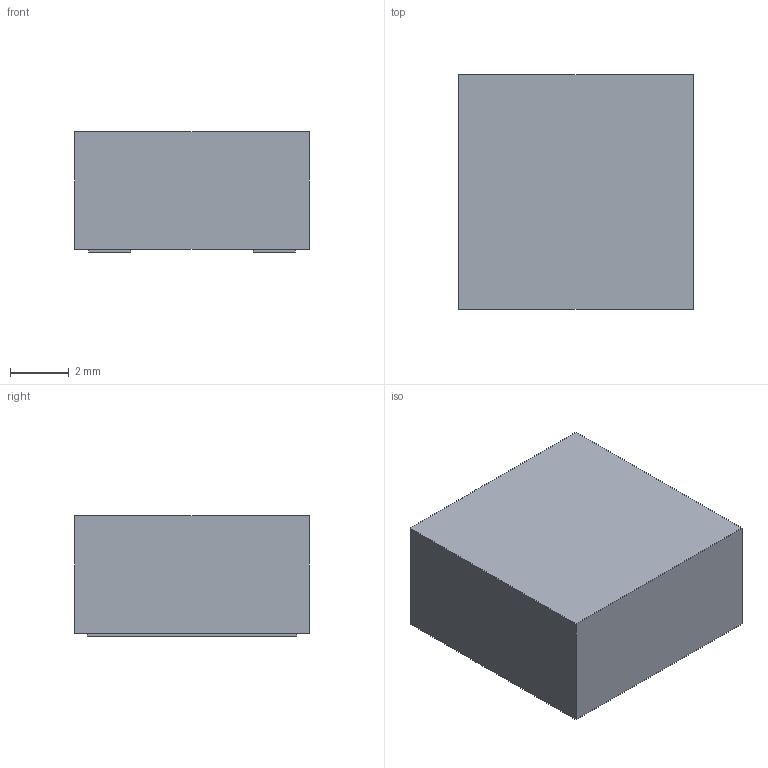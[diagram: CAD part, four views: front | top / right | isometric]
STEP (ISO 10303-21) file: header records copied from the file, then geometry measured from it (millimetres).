
FILE_DESCRIPTION(('FreeCAD Model'),'2;1');
FILE_NAME('/var/www/3D/0T/1086466.2.5.stp','2024-02-13T14:24:42',( 'Author'),(''),'Open CASCADE STEP processor 6.9','FreeCAD','Unknown' );
FILE_SCHEMA(('AUTOMOTIVE_DESIGN { 1 0 10303 214 1 1 1 1 }'));
Length unit declared in the file: millimetre
Products named in the file (3): ASSEMBLY; Body; Pins
Assembly tree (2 placements, depth 2):
  ASSEMBLY
    Body
    Pins
Bounding box: 8 x 8 x 4.1 mm (x, y, z)
Volume: 258.1 mm3; surface area: 300.6 mm2
Topology: 3 solids, 3 shells, 18 faces, 36 edges, 24 vertices
Faces by surface type: plane 18
Entity records: 1001 total; most frequent: CARTESIAN_POINT 153, DIRECTION 150, LINE 108, VECTOR 108, ORIENTED_EDGE 72, PCURVE 72, DEFINITIONAL_REPRESENTATION 72, EDGE_CURVE 36
